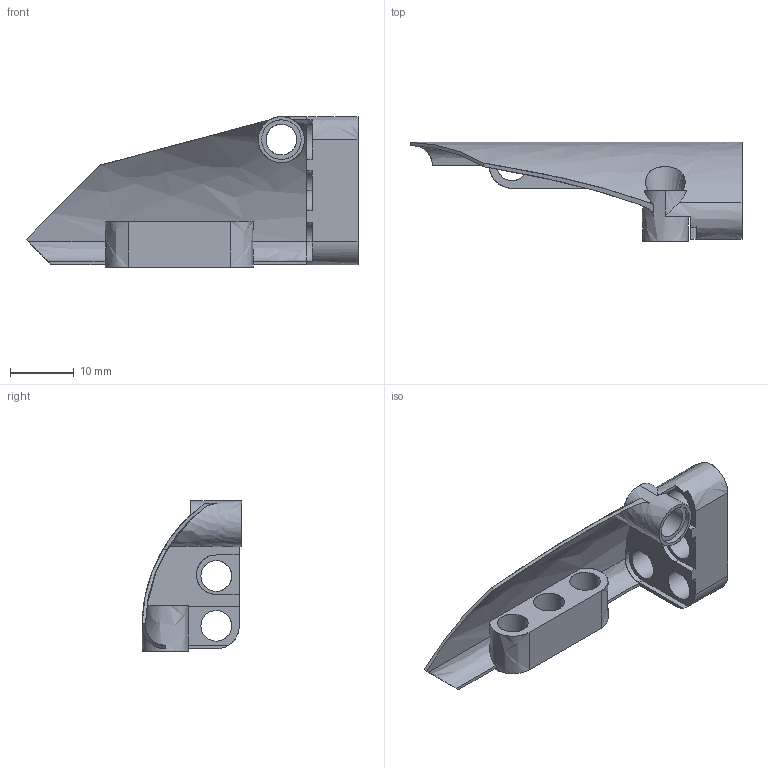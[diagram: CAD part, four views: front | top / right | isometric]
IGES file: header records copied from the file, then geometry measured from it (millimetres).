
Start section: C
Global section: file name: Ye_6005195_AVV.iges; native system: By Siemens PLM Incorporated; preprocessor: XPlus GENERIC/IGES 26.1.183; author: Author; organization: Title; date: 20250722.001037; units: millimetre
Bounding box: 52 x 15.6 x 23.6 mm (x, y, z)
Surface area: 4597 mm2 (no closed solid volume)
Topology: 0 solids, 0 shells, 126 faces, 716 edges, 716 vertices
Faces by surface type: bspline 126
